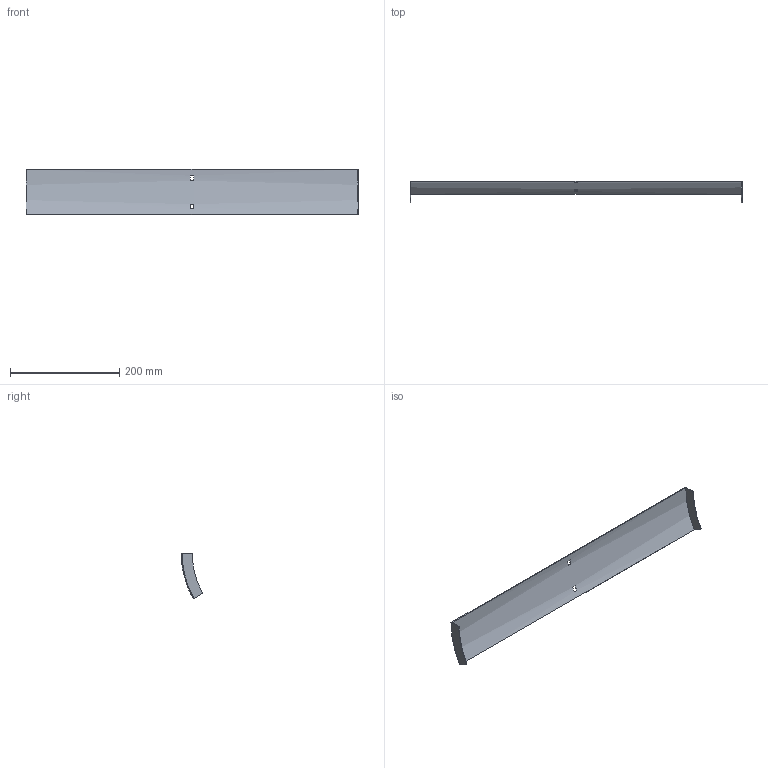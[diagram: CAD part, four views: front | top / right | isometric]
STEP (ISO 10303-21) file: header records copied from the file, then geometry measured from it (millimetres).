
FILE_DESCRIPTION (( 'STEP AP214' ), '1' );
FILE_NAME ('35N1H600.step', '2025-02-21T09:12:46', ( '' ), ( '' ), 'SwSTEP 2.0', 'SolidWorks 2023', '' );
FILE_SCHEMA (( 'AUTOMOTIVE_DESIGN' ));
Length unit declared in the file: millimetre
Products named in the file (1): 35N1H600
Bounding box: 607 x 39.69 x 83.5 mm (x, y, z)
Volume: 83621.7 mm3; surface area: 113753.1 mm2
Topology: 1 solids, 1 shells, 18 faces, 48 edges, 32 vertices
Faces by surface type: plane 14, cylinder 4
Entity records: 599 total; most frequent: DIRECTION 102, CARTESIAN_POINT 99, ORIENTED_EDGE 96, EDGE_CURVE 48, AXIS2_PLACEMENT_3D 35, LINE 32, VECTOR 32, VERTEX_POINT 32
